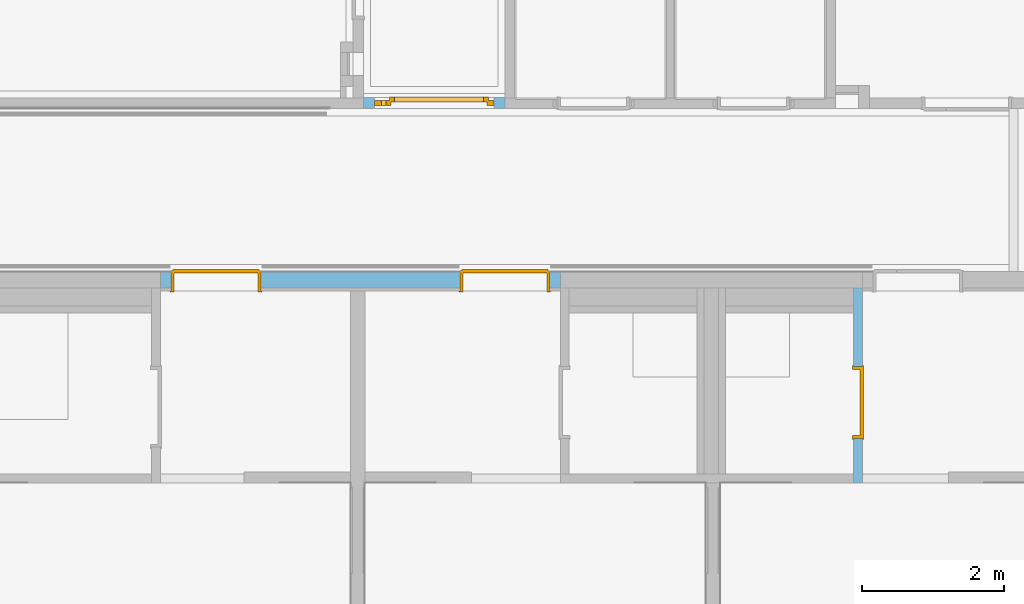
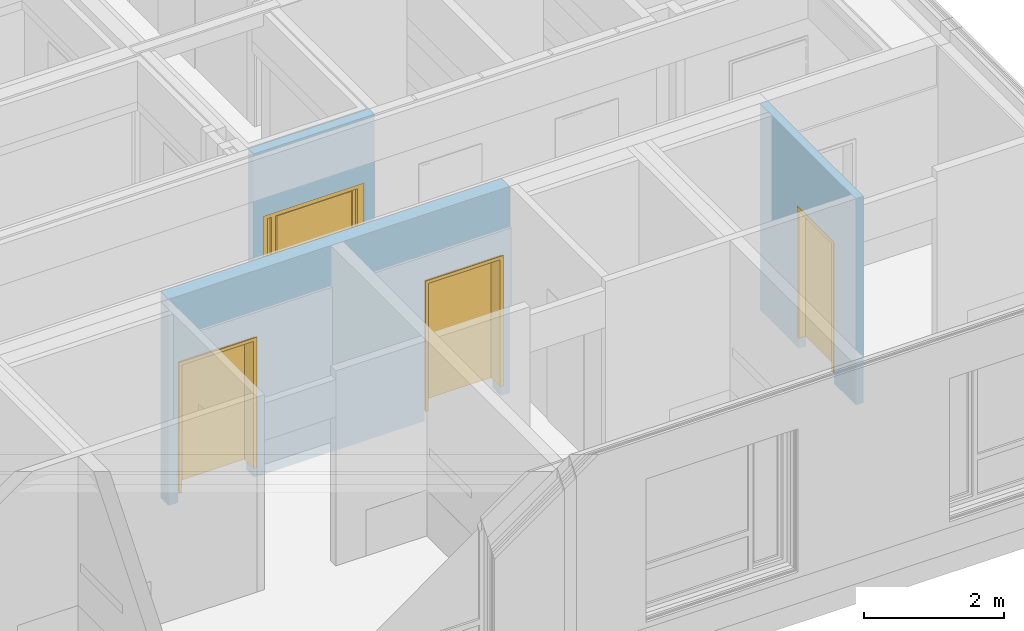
# One storey, part 138 of 207: 4 doors, 4 openings, plus 3 elements that do not belong to this part.
"""IFC4 building model written with IfcOpenShell, lengths in metres."""

from ifc_helpers import new_model, entity, si_unit, converted_unit, derived_unit, frame, frame_2d, origin, origin_with_axes, place, context, subcontext, project, spatial, polyline, rectangle, outline, extrude, closed_shell, open_shell, faceted_brep, surface_model, source, transform, mapped, material, type_object, element, fill, save


model = new_model("IFC4")

# Units and contexts
model_context = context("Model", 3, precision=1e-05, world=origin())
body_context = subcontext(model_context, "Body", "Model", "MODEL_VIEW")
ifc_project = project(units=[si_unit("LENGTHUNIT", "METRE"), si_unit("AREAUNIT", "SQUARE_METRE"), si_unit("VOLUMEUNIT", "CUBIC_METRE"), si_unit("MASSUNIT", "GRAM", prefix="KILO"), converted_unit("PLANEANGLEUNIT", "DEGREE", entity("IfcPlaneAngleMeasure", 0.0174532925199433), si_unit("PLANEANGLEUNIT", "RADIAN"), dimensions=[0, 0, 0, 0, 0, 0, 0]), derived_unit("THERMALTRANSMITTANCEUNIT", [(si_unit("POWERUNIT", "WATT"), 1), (si_unit("THERMODYNAMICTEMPERATUREUNIT", "KELVIN"), -1), (si_unit("LENGTHUNIT", "METRE"), -2)]), derived_unit("VOLUMETRICFLOWRATEUNIT", [(si_unit("LENGTHUNIT", "METRE"), 3), (converted_unit("TIMEUNIT", "hour", entity("IfcTimeMeasure", 3600.0), si_unit("TIMEUNIT", "SECOND"), dimensions=[0, 0, 1, 0, 0, 0, 0]), -1), (si_unit("LENGTHUNIT", "METRE"), -1)])], contexts=[model_context])

# Site, building, storey
site_placement = place(None, origin())
site = spatial("IfcSite", under=ifc_project, at=site_placement, Name="Psychiatrie Neubau Wunstorf", CompositionType="ELEMENT")
building_placement = place(site_placement, origin())
building = spatial("IfcBuilding", under=site, at=building_placement, Name="Neubau H2 Stationsgebäude", CompositionType="ELEMENT")
storey_placement = place(building_placement, frame((0.0, 0.0, -0.2)))
storey = spatial("IfcBuildingStorey", under=building, at=storey_placement, Name="H2 Ebene 0", CompositionType="ELEMENT", Elevation=-0.2)

# Wall, openings, doors
ifc_material_1 = material(Name="WI-HW 60")
wall_1_placement = place(storey_placement, frame((98.85, 5.3325, 0.0), z_axis=(0.0, 0.0, 1.0), x_axis=(-1.0, 0.0, 0.0)))
wall_1 = element("IfcWall", 1, at=wall_1_placement, inside=storey, material=ifc_material_1, context=body_context, shape_type="SweptSolid", body=[
    extrude(rectangle(XDim=5.6249999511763, YDim=0.232, at=frame_2d((2.81249997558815, 0.116), x_axis=(1.0, 0.0))), origin_with_axes(), (0.0, 0.0, 1.0), 3.6),
])
opening_1_placement = place(wall_1_placement, frame((4.2149999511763, 0.0, 0.0), z_axis=(0.0, 1.0, 0.0), x_axis=(0.0, 0.0, 1.0)))
opening_1 = element("IfcOpeningElement", 2, at=opening_1_placement, cuts=wall_1, Name="Türöffnung", ObjectType="Opening", context=body_context, shape_type="SweptSolid", body=[
    extrude(outline(polyline([(2.46, 1.26), (2.46, 0.0), (0.0, 0.0), (0.0, 1.26), (2.46, 1.26)])), origin_with_axes(), (0.0, 0.0, 1.0), 0.232),
])
opening_2_placement = place(wall_1_placement, frame((0.149999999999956, 0.0, 0.0), z_axis=(0.0, 1.0, 0.0), x_axis=(0.0, 0.0, 1.0)))
opening_2 = element("IfcOpeningElement", 3, at=opening_2_placement, cuts=wall_1, Name="Türöffnung", ObjectType="Opening", context=body_context, shape_type="SweptSolid", body=[
    extrude(outline(polyline([(2.46, 1.26), (2.46, 0.0), (0.0, 0.0), (0.0, 1.26), (2.46, 1.26)])), origin_with_axes(), (0.0, 0.0, 1.0), 0.232),
])
ifc_material_2 = material(Name="TI-2F-UZ-D")
door_type_1 = type_object("IfcDoorType", Name="SMT", OperationType="DOUBLE_DOOR_SINGLE_SWING", ParameterTakesPrecedence=False, PredefinedType="DOOR")
shared_shape_1 = source(origin_with_axes(), body_context, "Body", "Brep", [
    faceted_brep([(1.26, -0.015, 2.46), (1.26, -0.015, 0.2), (1.22, -0.015, 0.2), (1.22, -0.015, 2.46), (1.26, 0.287, 0.2), (1.26, 0.287, 2.46), (1.22, 0.287, 2.46), (1.22, 0.287, 0.2)], [[[0, 1, 2, 3]], [[4, 5, 6, 7]], [[1, 0, 5, 4]], [[2, 1, 4, 7]], [[3, 2, 7, 6]], [[0, 3, 6, 5]]], orient=[[False], [False], [False], [False], [False], [False]]),
    faceted_brep([(1.26, -0.015, 2.475), (1.275, -0.015, 2.475), (1.275, -0.015, 0.2), (1.26, -0.015, 0.2), (1.26, 0.0, 0.2), (1.275, 0.0, 0.2), (1.275, 0.0, 2.475), (1.26, 0.0, 2.475)], [[[0, 1, 2, 3]], [[4, 5, 6, 7]], [[3, 4, 7, 0]], [[2, 5, 4, 3]], [[1, 6, 5, 2]], [[0, 7, 6, 1]]], orient=[[False], [False], [False], [False], [False], [False]]),
    faceted_brep([(1.26, 0.272, 2.475), (1.275, 0.272, 2.475), (1.275, 0.272, 0.2), (1.26, 0.272, 0.2), (1.26, 0.287, 0.2), (1.275, 0.287, 0.2), (1.275, 0.287, 2.475), (1.26, 0.287, 2.475)], [[[0, 1, 2, 3]], [[4, 5, 6, 7]], [[3, 4, 7, 0]], [[2, 5, 4, 3]], [[1, 6, 5, 2]], [[0, 7, 6, 1]]], orient=[[False], [False], [False], [False], [False], [False]]),
    faceted_brep([(0.04, -0.015, 2.46), (0.04, -0.015, 0.2), (0.0, -0.015, 0.2), (0.0, -0.015, 2.46), (0.04, 0.287, 0.2), (0.04, 0.287, 2.46), (0.0, 0.287, 2.46), (0.0, 0.287, 0.2)], [[[0, 1, 2, 3]], [[4, 5, 6, 7]], [[1, 0, 5, 4]], [[2, 1, 4, 7]], [[3, 2, 7, 6]], [[0, 3, 6, 5]]], orient=[[False], [False], [False], [False], [False], [False]]),
    faceted_brep([(0.0, -0.015, 2.475), (0.0, -0.015, 0.2), (-0.015, -0.015, 0.2), (-0.015, -0.015, 2.475), (0.0, 0.0, 0.2), (0.0, 0.0, 2.475), (-0.015, 0.0, 2.475), (-0.015, 0.0, 0.2)], [[[0, 1, 2, 3]], [[4, 5, 6, 7]], [[1, 0, 5, 4]], [[2, 1, 4, 7]], [[3, 2, 7, 6]], [[0, 3, 6, 5]]], orient=[[False], [False], [False], [False], [False], [False]]),
    faceted_brep([(0.0, 0.272, 2.475), (0.0, 0.272, 0.2), (-0.015, 0.272, 0.2), (-0.015, 0.272, 2.475), (0.0, 0.287, 0.2), (0.0, 0.287, 2.475), (-0.015, 0.287, 2.475), (-0.015, 0.287, 0.2)], [[[0, 1, 2, 3]], [[4, 5, 6, 7]], [[1, 0, 5, 4]], [[2, 1, 4, 7]], [[3, 2, 7, 6]], [[0, 3, 6, 5]]], orient=[[False], [False], [False], [False], [False], [False]]),
    faceted_brep([(1.22, -0.015, 2.46), (1.22, -0.015, 2.42), (0.04, -0.015, 2.42), (0.04, -0.015, 2.46), (1.22, 0.287, 2.42), (1.22, 0.287, 2.46), (0.04, 0.287, 2.46), (0.04, 0.287, 2.42)], [[[0, 1, 2, 3]], [[4, 5, 6, 7]], [[1, 0, 5, 4]], [[2, 1, 4, 7]], [[3, 2, 7, 6]], [[0, 3, 6, 5]]], orient=[[False], [False], [False], [False], [False], [False]]),
    faceted_brep([(1.26, -0.015, 2.475), (1.26, -0.015, 2.46), (0.0, -0.015, 2.46), (0.0, -0.015, 2.475), (1.26, 0.0, 2.46), (1.26, 0.0, 2.475), (0.0, 0.0, 2.475), (0.0, 0.0, 2.46)], [[[0, 1, 2, 3]], [[4, 5, 6, 7]], [[1, 0, 5, 4]], [[2, 1, 4, 7]], [[3, 2, 7, 6]], [[0, 3, 6, 5]]], orient=[[False], [False], [False], [False], [False], [False]]),
    faceted_brep([(1.26, 0.272, 2.475), (1.26, 0.272, 2.46), (0.0, 0.272, 2.46), (0.0, 0.272, 2.475), (1.26, 0.287, 2.46), (1.26, 0.287, 2.475), (0.0, 0.287, 2.475), (0.0, 0.287, 2.46)], [[[0, 1, 2, 3]], [[4, 5, 6, 7]], [[1, 0, 5, 4]], [[2, 1, 4, 7]], [[3, 2, 7, 6]], [[0, 3, 6, 5]]], orient=[[False], [False], [False], [False], [False], [False]]),
    faceted_brep([(1.235, 0.252, 2.435), (1.235, 0.252, 0.2), (0.335, 0.252, 0.2), (0.335, 0.252, 2.435), (1.235, 0.302, 0.2), (1.235, 0.302, 2.435), (0.335, 0.302, 2.435), (0.335, 0.302, 0.2)], [[[0, 1, 2, 3]], [[4, 5, 6, 7]], [[1, 0, 5, 4]], [[2, 1, 4, 7]], [[3, 2, 7, 6]], [[0, 3, 6, 5]]], orient=[[False], [False], [False], [False], [False], [False]]),
    faceted_brep([(0.334, 0.252, 2.435), (0.334, 0.252, 0.2), (0.025, 0.252, 0.2), (0.025, 0.252, 2.435), (0.334, 0.302, 0.2), (0.334, 0.302, 2.435), (0.025, 0.302, 2.435), (0.025, 0.302, 0.2)], [[[0, 1, 2, 3]], [[4, 5, 6, 7]], [[1, 0, 5, 4]], [[2, 1, 4, 7]], [[3, 2, 7, 6]], [[0, 3, 6, 5]]], orient=[[False], [False], [False], [False], [False], [False]]),
])
door_1_placement = place(opening_1_placement, frame((0.0, 1.26, 0.272), z_axis=(1.0, 0.0, 0.0), x_axis=(0.0, -1.0, 0.0)))
door_1 = element("IfcDoor", 4, at=door_1_placement, inside=storey, type_object=door_type_1, material=ifc_material_2, Name="SMT", OverallHeight=2.46, OverallWidth=1.26, context=body_context, shape_type="MappedRepresentation", body=[
    mapped(shared_shape_1, transform((0.0, 0.0, 0.0), x_axis=(1.0, 0.0, 0.0), y_axis=(0.0, 1.0, 0.0), z_axis=(0.0, 0.0, 1.0), scale=1.0)),
])
fill(opening_1, door_1)
ifc_material_3 = material(Name="TI-2F-UZ-D")
door_type_2 = type_object("IfcDoorType", Name="SMT", OperationType="DOUBLE_DOOR_SINGLE_SWING", ParameterTakesPrecedence=False, PredefinedType="DOOR")
shared_shape_2 = source(origin_with_axes(), body_context, "Body", "Brep", [
    faceted_brep([(0.0, -0.015, 2.46), (0.04, -0.015, 2.46), (0.04, -0.015, 0.2), (0.0, -0.015, 0.2), (0.0, 0.287, 0.2), (0.04, 0.287, 0.2), (0.04, 0.287, 2.46), (0.0, 0.287, 2.46)], [[[0, 1, 2, 3]], [[4, 5, 6, 7]], [[3, 4, 7, 0]], [[2, 5, 4, 3]], [[1, 6, 5, 2]], [[0, 7, 6, 1]]], orient=[[False], [False], [False], [False], [False], [False]]),
    faceted_brep([(0.0, -0.015, 2.475), (0.0, -0.015, 0.2), (-0.015, -0.015, 0.2), (-0.015, -0.015, 2.475), (0.0, 0.0, 0.2), (0.0, 0.0, 2.475), (-0.015, 0.0, 2.475), (-0.015, 0.0, 0.2)], [[[0, 1, 2, 3]], [[4, 5, 6, 7]], [[1, 0, 5, 4]], [[2, 1, 4, 7]], [[3, 2, 7, 6]], [[0, 3, 6, 5]]], orient=[[False], [False], [False], [False], [False], [False]]),
    faceted_brep([(0.0, 0.272, 2.475), (0.0, 0.272, 0.2), (-0.015, 0.272, 0.2), (-0.015, 0.272, 2.475), (0.0, 0.287, 0.2), (0.0, 0.287, 2.475), (-0.015, 0.287, 2.475), (-0.015, 0.287, 0.2)], [[[0, 1, 2, 3]], [[4, 5, 6, 7]], [[1, 0, 5, 4]], [[2, 1, 4, 7]], [[3, 2, 7, 6]], [[0, 3, 6, 5]]], orient=[[False], [False], [False], [False], [False], [False]]),
    faceted_brep([(1.22, -0.015, 2.46), (1.26, -0.015, 2.46), (1.26, -0.015, 0.2), (1.22, -0.015, 0.2), (1.22, 0.287, 0.2), (1.26, 0.287, 0.2), (1.26, 0.287, 2.46), (1.22, 0.287, 2.46)], [[[0, 1, 2, 3]], [[4, 5, 6, 7]], [[3, 4, 7, 0]], [[2, 5, 4, 3]], [[1, 6, 5, 2]], [[0, 7, 6, 1]]], orient=[[False], [False], [False], [False], [False], [False]]),
    faceted_brep([(1.26, -0.015, 2.475), (1.275, -0.015, 2.475), (1.275, -0.015, 0.2), (1.26, -0.015, 0.2), (1.26, 0.0, 0.2), (1.275, 0.0, 0.2), (1.275, 0.0, 2.475), (1.26, 0.0, 2.475)], [[[0, 1, 2, 3]], [[4, 5, 6, 7]], [[3, 4, 7, 0]], [[2, 5, 4, 3]], [[1, 6, 5, 2]], [[0, 7, 6, 1]]], orient=[[False], [False], [False], [False], [False], [False]]),
    faceted_brep([(1.26, 0.272, 2.475), (1.275, 0.272, 2.475), (1.275, 0.272, 0.2), (1.26, 0.272, 0.2), (1.26, 0.287, 0.2), (1.275, 0.287, 0.2), (1.275, 0.287, 2.475), (1.26, 0.287, 2.475)], [[[0, 1, 2, 3]], [[4, 5, 6, 7]], [[3, 4, 7, 0]], [[2, 5, 4, 3]], [[1, 6, 5, 2]], [[0, 7, 6, 1]]], orient=[[False], [False], [False], [False], [False], [False]]),
    faceted_brep([(0.04, -0.015, 2.46), (1.22, -0.015, 2.46), (1.22, -0.015, 2.42), (0.04, -0.015, 2.42), (0.04, 0.287, 2.42), (1.22, 0.287, 2.42), (1.22, 0.287, 2.46), (0.04, 0.287, 2.46)], [[[0, 1, 2, 3]], [[4, 5, 6, 7]], [[3, 4, 7, 0]], [[2, 5, 4, 3]], [[1, 6, 5, 2]], [[0, 7, 6, 1]]], orient=[[False], [False], [False], [False], [False], [False]]),
    faceted_brep([(0.0, -0.015, 2.475), (1.26, -0.015, 2.475), (1.26, -0.015, 2.46), (0.0, -0.015, 2.46), (0.0, 0.0, 2.46), (1.26, 0.0, 2.46), (1.26, 0.0, 2.475), (0.0, 0.0, 2.475)], [[[0, 1, 2, 3]], [[4, 5, 6, 7]], [[3, 4, 7, 0]], [[2, 5, 4, 3]], [[1, 6, 5, 2]], [[0, 7, 6, 1]]], orient=[[False], [False], [False], [False], [False], [False]]),
    faceted_brep([(0.0, 0.272, 2.475), (1.26, 0.272, 2.475), (1.26, 0.272, 2.46), (0.0, 0.272, 2.46), (0.0, 0.287, 2.46), (1.26, 0.287, 2.46), (1.26, 0.287, 2.475), (0.0, 0.287, 2.475)], [[[0, 1, 2, 3]], [[4, 5, 6, 7]], [[3, 4, 7, 0]], [[2, 5, 4, 3]], [[1, 6, 5, 2]], [[0, 7, 6, 1]]], orient=[[False], [False], [False], [False], [False], [False]]),
    faceted_brep([(0.025, 0.252, 2.435), (0.925, 0.252, 2.435), (0.925, 0.252, 0.2), (0.025, 0.252, 0.2), (0.025, 0.302, 0.2), (0.925, 0.302, 0.2), (0.925, 0.302, 2.435), (0.025, 0.302, 2.435)], [[[0, 1, 2, 3]], [[4, 5, 6, 7]], [[3, 4, 7, 0]], [[2, 5, 4, 3]], [[1, 6, 5, 2]], [[0, 7, 6, 1]]], orient=[[False], [False], [False], [False], [False], [False]]),
    faceted_brep([(0.926, 0.252, 2.435), (1.235, 0.252, 2.435), (1.235, 0.252, 0.2), (0.926, 0.252, 0.2), (0.926, 0.302, 0.2), (1.235, 0.302, 0.2), (1.235, 0.302, 2.435), (0.926, 0.302, 2.435)], [[[0, 1, 2, 3]], [[4, 5, 6, 7]], [[3, 4, 7, 0]], [[2, 5, 4, 3]], [[1, 6, 5, 2]], [[0, 7, 6, 1]]], orient=[[False], [False], [False], [False], [False], [False]]),
])
door_2_placement = place(opening_2_placement, frame((0.0, 1.26, 0.272), z_axis=(1.0, 0.0, 0.0), x_axis=(0.0, -1.0, 0.0)))
door_2 = element("IfcDoor", 5, at=door_2_placement, inside=storey, type_object=door_type_2, material=ifc_material_3, Name="SMT", OverallHeight=2.46, OverallWidth=1.26, context=body_context, shape_type="MappedRepresentation", body=[
    mapped(shared_shape_2, transform((0.0, 0.0, 0.0), x_axis=(1.0, 0.0, 0.0), y_axis=(0.0, 1.0, 0.0), z_axis=(0.0, 0.0, 1.0), scale=1.0)),
])
fill(opening_2, door_2)

# Wall, opening, door
ifc_material_4 = material(Name="WI-LB")
wall_2_placement = place(storey_placement, frame((98.075, 7.77999989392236, 0.0), z_axis=(0.0, 0.0, 1.0), x_axis=(-1.0, 0.0, 0.0)))
wall_2 = element("IfcWall", 6, at=wall_2_placement, inside=storey, material=ifc_material_4, context=body_context, shape_type="SweptSolid", body=[
    extrude(rectangle(XDim=1.99249996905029, YDim=0.155, at=frame_2d((0.996249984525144, 0.0775), x_axis=(1.0, 0.0))), origin_with_axes(), (0.0, 0.0, 1.0), 3.6),
])
opening_3_placement = place(wall_2_placement, frame((1.83749998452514, 0.155, 0.0), z_axis=(0.0, -1.0, 0.0), x_axis=(0.0, 0.0, 1.0)))
opening_3 = element("IfcOpeningElement", 7, at=opening_3_placement, cuts=wall_2, Name="Türöffnung", ObjectType="Opening", context=body_context, shape_type="SweptSolid", body=[
    extrude(outline(polyline([(2.46, 1.6825), (2.46, 0.0), (0.0, 0.0), (0.0, 1.6825), (2.46, 1.6825)])), origin_with_axes(), (0.0, 0.0, 1.0), 0.155),
])
ifc_material_5 = material(Name="TI-2F-AG-D-O")
door_type_3 = type_object("IfcDoorType", Name="SMT", OperationType="NOTDEFINED", ParameterTakesPrecedence=False, PredefinedType="DOOR")
shared_shape_3 = source(origin_with_axes(), body_context, "Body", "Brep", [
    faceted_brep([(-0.1275, 0.0275, 0.0), (-0.0275, 0.0275, 0.0), (-0.0275, 0.1275, 0.0), (-0.1275, 0.1275, 0.0), (-0.1275, 0.1275, 3.6), (-0.0275, 0.1275, 3.6), (-0.0275, 0.0275, 3.6), (-0.1275, 0.0275, 3.6)], [[[0, 1, 2, 3]], [[4, 5, 6, 7]], [[3, 4, 7, 0]], [[2, 5, 4, 3]], [[1, 6, 5, 2]], [[0, 7, 6, 1]]], orient=[[False], [False], [False], [False], [False], [False]]),
    faceted_brep([(1.71, 0.0275, 0.0), (1.81, 0.0275, 0.0), (1.81, 0.1275, 0.0), (1.71, 0.1275, 0.0), (1.71, 0.1275, 3.6), (1.81, 0.1275, 3.6), (1.81, 0.0275, 3.6), (1.71, 0.0275, 3.6)], [[[0, 1, 2, 3]], [[4, 5, 6, 7]], [[3, 4, 7, 0]], [[2, 5, 4, 3]], [[1, 6, 5, 2]], [[0, 7, 6, 1]]], orient=[[False], [False], [False], [False], [False], [False]]),
    faceted_brep([(-0.0275, 0.0275, 2.4875), (1.71, 0.0275, 2.4875), (1.71, 0.1275, 2.4875), (-0.0275, 0.1275, 2.4875), (-0.0275, 0.1275, 2.5875), (1.71, 0.1275, 2.5875), (1.71, 0.0275, 2.5875), (-0.0275, 0.0275, 2.5875)], [[[0, 1, 2, 3]], [[4, 5, 6, 7]], [[3, 4, 7, 0]], [[2, 5, 4, 3]], [[1, 6, 5, 2]], [[0, 7, 6, 1]]], orient=[[False], [False], [False], [False], [False], [False]]),
])
shared_shape_4 = source(origin_with_axes(), body_context, "Body", "SurfaceModel", [
    surface_model("IfcShellBasedSurfaceModel", [(0.0, 0.0425, 2.46), (0.1, 0.0425, 2.46), (0.1, 0.0425, 0.2), (0.0, 0.0425, 0.2), (0.0, 0.1125, 0.2), (0.1, 0.1125, 0.2), (0.1, 0.1125, 2.46), (0.0, 0.1125, 2.46)], [closed_shell([[[0, 1, 2, 3]], [[4, 5, 6, 7]], [[3, 4, 7, 0]], [[2, 5, 4, 3]], [[1, 6, 5, 2]], [[0, 7, 6, 1]]], orient=[[False], [False], [False], [False], [False], [False]])]),
    surface_model("IfcShellBasedSurfaceModel", [(1.5825, 0.0424999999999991, 2.46), (1.6825, 0.0424999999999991, 2.46), (1.6825, 0.0425, 0.2), (1.5825, 0.0425, 0.2), (1.5825, 0.1125, 0.2), (1.6825, 0.1125, 0.2), (1.6825, 0.112499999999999, 2.46), (1.5825, 0.112499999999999, 2.46)], [closed_shell([[[0, 1, 2, 3]], [[4, 5, 6, 7]], [[3, 4, 7, 0]], [[2, 5, 4, 3]], [[1, 6, 5, 2]], [[0, 7, 6, 1]]], orient=[[False], [False], [False], [False], [False], [False]])]),
    surface_model("IfcShellBasedSurfaceModel", [(0.1, 0.0425, 2.46), (1.5825, 0.0424999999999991, 2.46), (1.5825, 0.0424999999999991, 2.36), (0.1, 0.0425, 2.36), (0.1, 0.1125, 2.36), (1.5825, 0.112499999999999, 2.36), (1.5825, 0.112499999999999, 2.46), (0.1, 0.1125, 2.46)], [closed_shell([[[0, 1, 2, 3]], [[4, 5, 6, 7]], [[3, 4, 7, 0]], [[2, 5, 4, 3]], [[1, 6, 5, 2]], [[0, 7, 6, 1]]], orient=[[False], [False], [False], [False], [False], [False]])]),
    surface_model("IfcShellBasedSurfaceModel", [(0.1625, 0.0425, 2.36), (0.2325, 0.0425, 2.36), (0.2325, 0.0425, 0.2), (0.1625, 0.0425, 0.2), (0.1625, 0.1125, 0.2), (0.2325, 0.1125, 0.2), (0.2325, 0.1125, 2.36), (0.1625, 0.1125, 2.36)], [closed_shell([[[0, 1, 2, 3]], [[4, 5, 6, 7]], [[3, 4, 7, 0]], [[2, 5, 4, 3]], [[1, 6, 5, 2]], [[0, 7, 6, 1]]], orient=[[False], [False], [False], [False], [False], [False]])]),
    surface_model("IfcShellBasedSurfaceModel", [(0.1, 0.0425, 0.27), (0.1625, 0.0425, 0.27), (0.1625, 0.0425, 0.2), (0.1, 0.0425, 0.2), (0.1, 0.1125, 0.2), (0.1625, 0.1125, 0.2), (0.1625, 0.1125, 0.27), (0.1, 0.1125, 0.27)], [closed_shell([[[0, 1, 2, 3]], [[4, 5, 6, 7]], [[3, 4, 7, 0]], [[2, 5, 4, 3]], [[1, 6, 5, 2]], [[0, 7, 6, 1]]], orient=[[False], [False], [False], [False], [False], [False]])]),
    surface_model("IfcShellBasedSurfaceModel", [(0.2125, 0.0925, 2.38), (0.2825, 0.0925, 2.38), (0.2825, 0.0925, 0.18), (0.2125, 0.0925, 0.18), (0.2125, 0.1625, 0.18), (0.2825, 0.1625, 0.18), (0.2825, 0.1625, 2.38), (0.2125, 0.1625, 2.38)], [closed_shell([[[0, 1, 2, 3]], [[4, 5, 6, 7]], [[3, 4, 7, 0]], [[2, 5, 4, 3]], [[1, 6, 5, 2]], [[0, 7, 6, 1]]], orient=[[False], [False], [False], [False], [False], [False]])]),
    surface_model("IfcShellBasedSurfaceModel", [(1.5325, 0.0924999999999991, 2.38), (1.6025, 0.0924999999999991, 2.38), (1.6025, 0.0925, 0.18), (1.5325, 0.0925, 0.18), (1.5325, 0.1625, 0.18), (1.6025, 0.1625, 0.18), (1.6025, 0.162499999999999, 2.38), (1.5325, 0.162499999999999, 2.38)], [closed_shell([[[0, 1, 2, 3]], [[4, 5, 6, 7]], [[3, 4, 7, 0]], [[2, 5, 4, 3]], [[1, 6, 5, 2]], [[0, 7, 6, 1]]], orient=[[False], [False], [False], [False], [False], [False]])]),
    surface_model("IfcShellBasedSurfaceModel", [(0.2825, 0.0925, 0.25), (1.5325, 0.0925, 0.25), (1.5325, 0.0925, 0.18), (0.2825, 0.0925, 0.18), (0.2825, 0.1625, 0.18), (1.5325, 0.1625, 0.18), (1.5325, 0.1625, 0.25), (0.2825, 0.1625, 0.25)], [closed_shell([[[0, 1, 2, 3]], [[4, 5, 6, 7]], [[3, 4, 7, 0]], [[2, 5, 4, 3]], [[1, 6, 5, 2]], [[0, 7, 6, 1]]], orient=[[False], [False], [False], [False], [False], [False]])]),
    surface_model("IfcShellBasedSurfaceModel", [(0.2825, 0.0925, 2.38), (1.5325, 0.0924999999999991, 2.38), (1.5325, 0.0924999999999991, 2.31), (0.2825, 0.0925, 2.31), (0.2825, 0.1625, 2.31), (1.5325, 0.162499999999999, 2.31), (1.5325, 0.162499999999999, 2.38), (0.2825, 0.1625, 2.38)], [closed_shell([[[0, 1, 2, 3]], [[4, 5, 6, 7]], [[3, 4, 7, 0]], [[2, 5, 4, 3]], [[1, 6, 5, 2]], [[0, 7, 6, 1]]], orient=[[False], [False], [False], [False], [False], [False]])]),
    surface_model("IfcShellBasedSurfaceModel", [(0.2825, 0.1275, 0.25), (0.2825, 0.1275, 2.31), (1.5325, 0.127499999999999, 2.31), (1.5325, 0.1275, 0.25)], [open_shell([[[0, 1, 2, 3]]], orient=[[False]])]),
    surface_model("IfcShellBasedSurfaceModel", [(0.1, 0.0775, 0.27), (0.1, 0.0775, 2.36), (0.1625, 0.0775, 2.36), (0.1625, 0.0775, 0.27)], [open_shell([[[0, 1, 2, 3]]], orient=[[False]])]),
])
door_3_placement = place(opening_3_placement, frame((0.0, 0.0, 0.0), z_axis=(1.0, 0.0, 0.0), x_axis=(0.0, 1.0, 0.0)))
door_3 = element("IfcDoor", 8, at=door_3_placement, inside=storey, type_object=door_type_3, material=ifc_material_5, Name="SMT", OverallHeight=2.46, OverallWidth=1.6825, context=body_context, shape_type="MappedRepresentation", body=[
    mapped(shared_shape_3, transform((0.0, 0.0, 0.0), x_axis=(1.0, 0.0, 0.0), y_axis=(0.0, 1.0, 0.0), z_axis=(0.0, 0.0, 1.0), scale=1.0)),
    mapped(shared_shape_4, transform((0.0, 0.0, 0.0), x_axis=(1.0, 0.0, 0.0), y_axis=(0.0, 1.0, 0.0), z_axis=(0.0, 0.0, 1.0), scale=1.0)),
])
fill(opening_3, door_3)

ifc_material_6 = material(Name="WI-LB")
wall_3_placement = place(storey_placement, frame((102.975, 5.1005, 0.0), z_axis=(0.0, 0.0, 1.0), x_axis=(0.0, -1.0, 0.0)))
wall_3 = element("IfcWall", 9, at=wall_3_placement, inside=storey, material=ifc_material_6, context=body_context, shape_type="SweptSolid", body=[
    extrude(rectangle(XDim=2.74, YDim=0.125, at=frame_2d((1.37, 0.0625), x_axis=(1.0, 0.0))), origin_with_axes(), (0.0, 0.0, 1.0), 3.6),
])
opening_4_placement = place(wall_3_placement, frame((1.105, 0.0, 0.0), z_axis=(0.0, 1.0, 0.0), x_axis=(0.0, 0.0, 1.0)))
opening_4 = element("IfcOpeningElement", 10, at=opening_4_placement, cuts=wall_3, Name="Türöffnung", ObjectType="Opening", context=body_context, shape_type="SweptSolid", body=[
    extrude(outline(polyline([(2.46, 1.01), (2.46, 0.0), (0.0, 0.0), (0.0, 1.01), (2.46, 1.01)])), origin_with_axes(), (0.0, 0.0, 1.0), 0.125),
])
ifc_material_7 = material(Name="TI-1F-UZ-D-N")
door_type_4 = type_object("IfcDoorType", Name="SMT", OperationType="SINGLE_SWING_RIGHT", ParameterTakesPrecedence=False, PredefinedType="DOOR")
shared_shape_5 = source(origin_with_axes(), body_context, "Body", "Brep", [
    faceted_brep([(1.05, 0.0124999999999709, 0.0), (1.05, 0.112499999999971, 0.0), (1.01, 0.112499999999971, 0.0), (1.01, 0.0124999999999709, 0.0), (1.05, 0.112499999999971, 3.6), (1.05, 0.0124999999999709, 3.6), (1.01, 0.0124999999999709, 3.6), (1.01, 0.112499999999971, 3.6)], [[[0, 1, 2, 3]], [[4, 5, 6, 7]], [[1, 0, 5, 4]], [[2, 1, 4, 7]], [[3, 2, 7, 6]], [[0, 3, 6, 5]]], orient=[[False], [False], [False], [False], [False], [False]]),
    faceted_brep([(0.0, 0.0124999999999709, 0.0), (0.0, 0.112499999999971, 0.0), (-0.0399999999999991, 0.112499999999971, 0.0), (-0.0399999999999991, 0.0124999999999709, 0.0), (0.0, 0.112499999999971, 3.6), (0.0, 0.0124999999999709, 3.6), (-0.0399999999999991, 0.0124999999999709, 3.6), (-0.0399999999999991, 0.112499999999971, 3.6)], [[[0, 1, 2, 3]], [[4, 5, 6, 7]], [[1, 0, 5, 4]], [[2, 1, 4, 7]], [[3, 2, 7, 6]], [[0, 3, 6, 5]]], orient=[[False], [False], [False], [False], [False], [False]]),
    faceted_brep([(1.01, 0.0124999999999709, 2.46), (1.01, 0.112499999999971, 2.46), (0.0, 0.112499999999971, 2.46), (0.0, 0.0124999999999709, 2.46), (1.01, 0.112499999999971, 2.5), (1.01, 0.0124999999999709, 2.5), (0.0, 0.0124999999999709, 2.5), (0.0, 0.112499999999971, 2.5)], [[[0, 1, 2, 3]], [[4, 5, 6, 7]], [[1, 0, 5, 4]], [[2, 1, 4, 7]], [[3, 2, 7, 6]], [[0, 3, 6, 5]]], orient=[[False], [False], [False], [False], [False], [False]]),
])
shared_shape_6 = source(origin_with_axes(), body_context, "Body", "Brep", [
    faceted_brep([(0.0, -0.0150000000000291, 2.46), (0.0400000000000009, -0.0150000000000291, 2.46), (0.0400000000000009, -0.0150000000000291, 0.2), (0.0, -0.0150000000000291, 0.2), (0.0, 0.139999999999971, 0.2), (0.0400000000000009, 0.139999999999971, 0.2), (0.0400000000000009, 0.139999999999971, 2.46), (0.0, 0.139999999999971, 2.46)], [[[0, 1, 2, 3]], [[4, 5, 6, 7]], [[3, 4, 7, 0]], [[2, 5, 4, 3]], [[1, 6, 5, 2]], [[0, 7, 6, 1]]], orient=[[False], [False], [False], [False], [False], [False]]),
    faceted_brep([(0.0, -0.0150000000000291, 2.475), (0.0, -0.0150000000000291, 0.2), (-0.0149999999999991, -0.0150000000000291, 0.2), (-0.0149999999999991, -0.0150000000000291, 2.475), (0.0, 0.0, 0.2), (0.0, 0.0, 2.475), (-0.0149999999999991, 0.0, 2.475), (-0.0149999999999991, 0.0, 0.2)], [[[0, 1, 2, 3]], [[4, 5, 6, 7]], [[1, 0, 5, 4]], [[2, 1, 4, 7]], [[3, 2, 7, 6]], [[0, 3, 6, 5]]], orient=[[False], [False], [False], [False], [False], [False]]),
    faceted_brep([(0.0, 0.124999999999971, 2.475), (0.0, 0.124999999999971, 0.2), (-0.0149999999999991, 0.124999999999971, 0.2), (-0.0149999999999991, 0.124999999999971, 2.475), (0.0, 0.139999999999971, 0.2), (0.0, 0.139999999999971, 2.475), (-0.0149999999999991, 0.139999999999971, 2.475), (-0.0149999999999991, 0.139999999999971, 0.2)], [[[0, 1, 2, 3]], [[4, 5, 6, 7]], [[1, 0, 5, 4]], [[2, 1, 4, 7]], [[3, 2, 7, 6]], [[0, 3, 6, 5]]], orient=[[False], [False], [False], [False], [False], [False]]),
    faceted_brep([(0.970000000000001, -0.0150000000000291, 2.46), (1.01, -0.0150000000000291, 2.46), (1.01, -0.0150000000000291, 0.2), (0.970000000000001, -0.0150000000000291, 0.2), (0.970000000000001, 0.139999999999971, 0.2), (1.01, 0.139999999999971, 0.2), (1.01, 0.139999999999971, 2.46), (0.970000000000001, 0.139999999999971, 2.46)], [[[0, 1, 2, 3]], [[4, 5, 6, 7]], [[3, 4, 7, 0]], [[2, 5, 4, 3]], [[1, 6, 5, 2]], [[0, 7, 6, 1]]], orient=[[False], [False], [False], [False], [False], [False]]),
    faceted_brep([(1.01, -0.0150000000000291, 2.475), (1.025, -0.0150000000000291, 2.475), (1.025, -0.0150000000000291, 0.2), (1.01, -0.0150000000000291, 0.2), (1.01, 0.0, 0.2), (1.025, 0.0, 0.2), (1.025, 0.0, 2.475), (1.01, 0.0, 2.475)], [[[0, 1, 2, 3]], [[4, 5, 6, 7]], [[3, 4, 7, 0]], [[2, 5, 4, 3]], [[1, 6, 5, 2]], [[0, 7, 6, 1]]], orient=[[False], [False], [False], [False], [False], [False]]),
    faceted_brep([(1.01, 0.124999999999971, 2.475), (1.025, 0.124999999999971, 2.475), (1.025, 0.124999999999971, 0.2), (1.01, 0.124999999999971, 0.2), (1.01, 0.139999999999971, 0.2), (1.025, 0.139999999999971, 0.2), (1.025, 0.139999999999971, 2.475), (1.01, 0.139999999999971, 2.475)], [[[0, 1, 2, 3]], [[4, 5, 6, 7]], [[3, 4, 7, 0]], [[2, 5, 4, 3]], [[1, 6, 5, 2]], [[0, 7, 6, 1]]], orient=[[False], [False], [False], [False], [False], [False]]),
    faceted_brep([(0.0400000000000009, -0.0150000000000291, 2.46), (0.970000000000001, -0.0150000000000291, 2.46), (0.970000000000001, -0.0150000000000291, 2.42), (0.0400000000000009, -0.0150000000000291, 2.42), (0.0400000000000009, 0.139999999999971, 2.42), (0.970000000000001, 0.139999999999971, 2.42), (0.970000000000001, 0.139999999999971, 2.46), (0.0400000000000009, 0.139999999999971, 2.46)], [[[0, 1, 2, 3]], [[4, 5, 6, 7]], [[3, 4, 7, 0]], [[2, 5, 4, 3]], [[1, 6, 5, 2]], [[0, 7, 6, 1]]], orient=[[False], [False], [False], [False], [False], [False]]),
    faceted_brep([(0.0, -0.0150000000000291, 2.475), (1.01, -0.0150000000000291, 2.475), (1.01, -0.0150000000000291, 2.46), (0.0, -0.0150000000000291, 2.46), (0.0, 0.0, 2.46), (1.01, 0.0, 2.46), (1.01, 0.0, 2.475), (0.0, 0.0, 2.475)], [[[0, 1, 2, 3]], [[4, 5, 6, 7]], [[3, 4, 7, 0]], [[2, 5, 4, 3]], [[1, 6, 5, 2]], [[0, 7, 6, 1]]], orient=[[False], [False], [False], [False], [False], [False]]),
    faceted_brep([(0.0, 0.124999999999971, 2.475), (1.01, 0.124999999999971, 2.475), (1.01, 0.124999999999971, 2.46), (0.0, 0.124999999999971, 2.46), (0.0, 0.139999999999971, 2.46), (1.01, 0.139999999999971, 2.46), (1.01, 0.139999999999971, 2.475), (0.0, 0.139999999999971, 2.475)], [[[0, 1, 2, 3]], [[4, 5, 6, 7]], [[3, 4, 7, 0]], [[2, 5, 4, 3]], [[1, 6, 5, 2]], [[0, 7, 6, 1]]], orient=[[False], [False], [False], [False], [False], [False]]),
    faceted_brep([(0.0250000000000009, 0.0909999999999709, 2.435), (0.985000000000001, 0.0909999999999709, 2.435), (0.985000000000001, 0.0909999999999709, 0.2), (0.0250000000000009, 0.0909999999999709, 0.2), (0.0250000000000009, 0.140999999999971, 0.2), (0.985000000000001, 0.140999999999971, 0.2), (0.985000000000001, 0.140999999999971, 2.435), (0.0250000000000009, 0.140999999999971, 2.435)], [[[0, 1, 2, 3]], [[4, 5, 6, 7]], [[3, 4, 7, 0]], [[2, 5, 4, 3]], [[1, 6, 5, 2]], [[0, 7, 6, 1]]], orient=[[False], [False], [False], [False], [False], [False]]),
])
door_4_placement = place(opening_4_placement, frame((0.0, 0.0, 0.0), z_axis=(1.0, 0.0, 0.0), x_axis=(0.0, 1.0, 0.0)))
door_4 = element("IfcDoor", 11, at=door_4_placement, inside=storey, type_object=door_type_4, material=ifc_material_7, Name="SMT", OverallHeight=2.46, OverallWidth=1.01, context=body_context, shape_type="MappedRepresentation", body=[
    mapped(shared_shape_5, transform((0.0, 0.0, 0.0), x_axis=(1.0, 0.0, 0.0), y_axis=(0.0, 1.0, 0.0), z_axis=(0.0, 0.0, 1.0), scale=1.0)),
    mapped(shared_shape_6, transform((0.0, 0.0, 0.0), x_axis=(1.0, 0.0, 0.0), y_axis=(0.0, 1.0, 0.0), z_axis=(0.0, 0.0, 1.0), scale=1.0)),
])
fill(opening_4, door_4)

save(model, "model.ifc")
